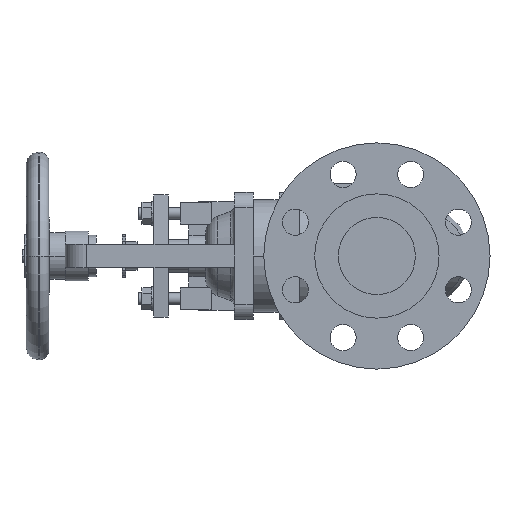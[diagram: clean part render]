
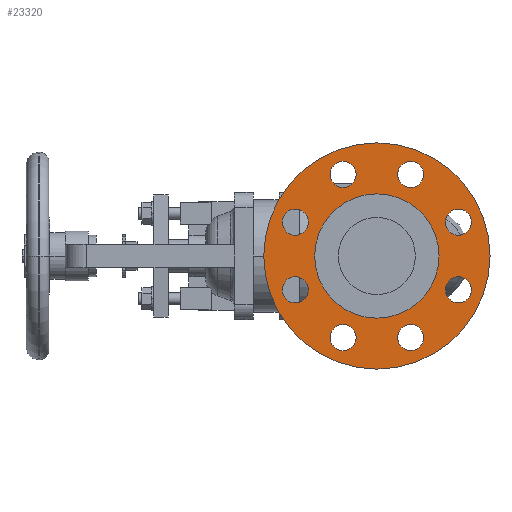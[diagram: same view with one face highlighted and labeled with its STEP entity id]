
A CAD part, left-side view. The second image highlights one B-rep face of the part: STEP entity #23320.
In plain terms, the highlighted planar face has unit normal (-1, 0, 0).
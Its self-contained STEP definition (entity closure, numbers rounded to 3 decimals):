
#4790=CARTESIAN_POINT('',(1.6,0.,-95.5));
#4800=VERTEX_POINT('',#4790);
#4960=CARTESIAN_POINT('',(1.6,0.,95.5));
#4970=VERTEX_POINT('',#4960);
#5000=CARTESIAN_POINT('',(1.6,0.,0.));
#5010=DIRECTION('',(1.,0.,0.));
#5020=DIRECTION('',(0.,0.,-1.));
#5030=AXIS2_PLACEMENT_3D('',#5000,#5010,#5020);
#5040=CIRCLE('',#5030,95.5);
#5050=CARTESIAN_POINT('',(1.6,95.5,0.));
#5060=VERTEX_POINT('',#5050);
#5070=EDGE_CURVE('',#5060,#4970,#5040,.T.);
#5090=EDGE_CURVE('',#4800,#5060,#5040,.T.);
#5320=CARTESIAN_POINT('',(1.6,28.51,
-79.829));
#5330=VERTEX_POINT('',#5320);
#5360=CARTESIAN_POINT('',(1.6,28.51,
-68.829));
#5370=DIRECTION('',(-1.,0.,0.));
#5380=DIRECTION('',(0.,0.,-1.));
#5390=AXIS2_PLACEMENT_3D('',#5360,#5370,#5380);
#5400=CIRCLE('',#5390,11.);
#5410=CARTESIAN_POINT('',(1.6,28.51,
-57.829));
#5420=VERTEX_POINT('',#5410);
#5430=EDGE_CURVE('',#5420,#5330,#5400,.T.);
#5810=CARTESIAN_POINT('',(1.6,-28.51,
-57.829));
#5820=VERTEX_POINT('',#5810);
#5850=CARTESIAN_POINT('',(1.6,-28.51,
-68.829));
#5860=DIRECTION('',(-1.,0.,0.));
#5870=DIRECTION('',(0.,0.,-1.));
#5880=AXIS2_PLACEMENT_3D('',#5850,#5860,#5870);
#5890=CIRCLE('',#5880,11.);
#5900=CARTESIAN_POINT('',(1.6,-28.51,
-79.829));
#5910=VERTEX_POINT('',#5900);
#5920=EDGE_CURVE('',#5910,#5820,#5890,.T.);
#6300=CARTESIAN_POINT('',(1.6,68.829,
-17.51));
#6310=VERTEX_POINT('',#6300);
#6340=CARTESIAN_POINT('',(1.6,68.829,
-28.51));
#6350=DIRECTION('',(-1.,0.,0.));
#6360=DIRECTION('',(0.,0.,-1.));
#6370=AXIS2_PLACEMENT_3D('',#6340,#6350,#6360);
#6380=CIRCLE('',#6370,11.);
#6390=CARTESIAN_POINT('',(1.6,68.829,
-39.51));
#6400=VERTEX_POINT('',#6390);
#6410=EDGE_CURVE('',#6400,#6310,#6380,.T.);
#6790=CARTESIAN_POINT('',(1.6,-68.829,
-39.51));
#6800=VERTEX_POINT('',#6790);
#6960=CARTESIAN_POINT('',(1.6,-68.829,
-17.51));
#6970=VERTEX_POINT('',#6960);
#7000=CARTESIAN_POINT('',(1.6,-68.829,
-28.51));
#7010=DIRECTION('',(-1.,0.,0.));
#7020=DIRECTION('',(0.,0.,-1.));
#7030=AXIS2_PLACEMENT_3D('',#7000,#7010,#7020);
#7040=CIRCLE('',#7030,11.);
#7050=EDGE_CURVE('',#6800,#6970,#7040,.T.);
#7280=CARTESIAN_POINT('',(1.6,68.829,
17.51));
#7290=VERTEX_POINT('',#7280);
#7450=CARTESIAN_POINT('',(1.6,68.829,
39.51));
#7460=VERTEX_POINT('',#7450);
#7490=CARTESIAN_POINT('',(1.6,68.829,
28.51));
#7500=DIRECTION('',(-1.,0.,0.));
#7510=DIRECTION('',(0.,0.,-1.));
#7520=AXIS2_PLACEMENT_3D('',#7490,#7500,#7510);
#7530=CIRCLE('',#7520,11.);
#7540=EDGE_CURVE('',#7290,#7460,#7530,.T.);
#7770=CARTESIAN_POINT('',(1.6,-68.829,
39.51));
#7780=VERTEX_POINT('',#7770);
#7810=CARTESIAN_POINT('',(1.6,-68.829,
28.51));
#7820=DIRECTION('',(-1.,0.,0.));
#7830=DIRECTION('',(0.,0.,-1.));
#7840=AXIS2_PLACEMENT_3D('',#7810,#7820,#7830);
#7850=CIRCLE('',#7840,11.);
#7860=CARTESIAN_POINT('',(1.6,-68.829,
17.51));
#7870=VERTEX_POINT('',#7860);
#7880=EDGE_CURVE('',#7870,#7780,#7850,.T.);
#8260=CARTESIAN_POINT('',(1.6,28.51,
57.829));
#8270=VERTEX_POINT('',#8260);
#8430=CARTESIAN_POINT('',(1.6,28.51,
79.829));
#8440=VERTEX_POINT('',#8430);
#8470=CARTESIAN_POINT('',(1.6,28.51,
68.829));
#8480=DIRECTION('',(-1.,0.,0.));
#8490=DIRECTION('',(0.,0.,-1.));
#8500=AXIS2_PLACEMENT_3D('',#8470,#8480,#8490);
#8510=CIRCLE('',#8500,11.);
#8520=EDGE_CURVE('',#8270,#8440,#8510,.T.);
#8750=CARTESIAN_POINT('',(1.6,-28.51,
57.829));
#8760=VERTEX_POINT('',#8750);
#8920=CARTESIAN_POINT('',(1.6,-28.51,
79.829));
#8930=VERTEX_POINT('',#8920);
#8960=CARTESIAN_POINT('',(1.6,-28.51,
68.829));
#8970=DIRECTION('',(-1.,0.,0.));
#8980=DIRECTION('',(0.,0.,-1.));
#8990=AXIS2_PLACEMENT_3D('',#8960,#8970,#8980);
#9000=CIRCLE('',#8990,11.);
#9010=EDGE_CURVE('',#8760,#8930,#9000,.T.);
#9240=CARTESIAN_POINT('',(1.6,-52.5,0.));
#9250=VERTEX_POINT('',#9240);
#9410=CARTESIAN_POINT('',(1.6,52.5,0.));
#9420=VERTEX_POINT('',#9410);
#9450=CARTESIAN_POINT('',(1.6,0.,0.));
#9460=DIRECTION('',(-1.,0.,0.));
#9470=DIRECTION('',(0.,1.,0.));
#9480=AXIS2_PLACEMENT_3D('',#9450,#9460,#9470);
#9490=CIRCLE('',#9480,52.5);
#9500=EDGE_CURVE('',#9250,#9420,#9490,.T.);
#22760=CARTESIAN_POINT('',(1.6,74.,0.));
#22770=DIRECTION('',(1.,0.,0.));
#22780=DIRECTION('',(0.,-1.,0.));
#22790=AXIS2_PLACEMENT_3D('',#22760,#22770,#22780);
#22800=PLANE('',#22790);
#22810=EDGE_CURVE('',#9420,#9250,#9490,.T.);
#22820=ORIENTED_EDGE('',*,*,#22810,.F.);
#22830=ORIENTED_EDGE('',*,*,#9500,.F.);
#22840=EDGE_LOOP('',(#22830,#22820));
#22850=FACE_BOUND('',#22840,.T.);
#22860=ORIENTED_EDGE('',*,*,#5070,.F.);
#22870=EDGE_CURVE('',#4970,#4800,#5040,.T.);
#22880=ORIENTED_EDGE('',*,*,#22870,.F.);
#22890=ORIENTED_EDGE('',*,*,#5090,.F.);
#22900=EDGE_LOOP('',(#22890,#22880,#22860));
#22910=FACE_OUTER_BOUND('',#22900,.T.);
#22920=ORIENTED_EDGE('',*,*,#5430,.F.);
#22930=EDGE_CURVE('',#5330,#5420,#5400,.T.);
#22940=ORIENTED_EDGE('',*,*,#22930,.F.);
#22950=EDGE_LOOP('',(#22940,#22920));
#22960=FACE_BOUND('',#22950,.T.);
#22970=ORIENTED_EDGE('',*,*,#5920,.F.);
#22980=EDGE_CURVE('',#5820,#5910,#5890,.T.);
#22990=ORIENTED_EDGE('',*,*,#22980,.F.);
#23000=EDGE_LOOP('',(#22990,#22970));
#23010=FACE_BOUND('',#23000,.T.);
#23020=EDGE_CURVE('',#6310,#6400,#6380,.T.);
#23030=ORIENTED_EDGE('',*,*,#23020,.F.);
#23040=ORIENTED_EDGE('',*,*,#6410,.F.);
#23050=EDGE_LOOP('',(#23040,#23030));
#23060=FACE_BOUND('',#23050,.T.);
#23070=EDGE_CURVE('',#6970,#6800,#7040,.T.);
#23080=ORIENTED_EDGE('',*,*,#23070,.F.);
#23090=ORIENTED_EDGE('',*,*,#7050,.F.);
#23100=EDGE_LOOP('',(#23090,#23080));
#23110=FACE_BOUND('',#23100,.T.);
#23120=EDGE_CURVE('',#7460,#7290,#7530,.T.);
#23130=ORIENTED_EDGE('',*,*,#23120,.F.);
#23140=ORIENTED_EDGE('',*,*,#7540,.F.);
#23150=EDGE_LOOP('',(#23140,#23130));
#23160=FACE_BOUND('',#23150,.T.);
#23170=EDGE_CURVE('',#7780,#7870,#7850,.T.);
#23180=ORIENTED_EDGE('',*,*,#23170,.F.);
#23190=ORIENTED_EDGE('',*,*,#7880,.F.);
#23200=EDGE_LOOP('',(#23190,#23180));
#23210=FACE_BOUND('',#23200,.T.);
#23220=EDGE_CURVE('',#8440,#8270,#8510,.T.);
#23230=ORIENTED_EDGE('',*,*,#23220,.F.);
#23240=ORIENTED_EDGE('',*,*,#8520,.F.);
#23250=EDGE_LOOP('',(#23240,#23230));
#23260=FACE_BOUND('',#23250,.T.);
#23270=EDGE_CURVE('',#8930,#8760,#9000,.T.);
#23280=ORIENTED_EDGE('',*,*,#23270,.F.);
#23290=ORIENTED_EDGE('',*,*,#9010,.F.);
#23300=EDGE_LOOP('',(#23290,#23280));
#23310=FACE_BOUND('',#23300,.T.);
#23320=ADVANCED_FACE('',(#22850,#22910,#22960,#23010,#23060,#23110,
#23160,#23210,#23260,#23310),#22800,.F.);
